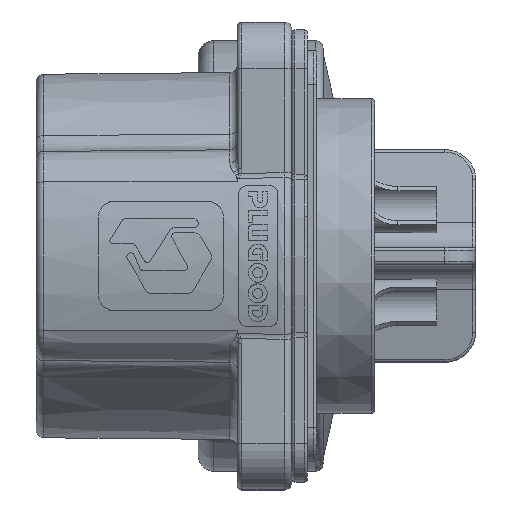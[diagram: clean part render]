
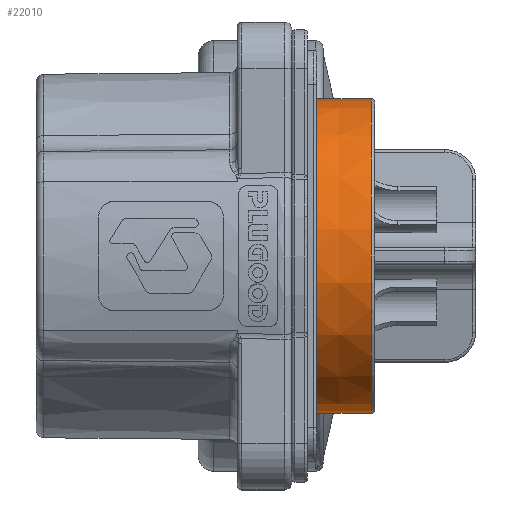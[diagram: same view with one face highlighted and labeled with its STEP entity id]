
A CAD part, front view. The second image highlights one B-rep face of the part: STEP entity #22010.
In plain terms, the highlighted conical face has half-angle 0.2 degrees and reference radius 10.1 mm.
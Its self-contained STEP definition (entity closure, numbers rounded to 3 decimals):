
#3506 = DIRECTION ( 'NONE',  ( 0., 0., -1. ) ) ;
#4284 = AXIS2_PLACEMENT_3D ( 'NONE', #45570, #27696, #23283 ) ;
#6580 = LINE ( 'NONE', #28331, #30476 ) ;
#8500 = CARTESIAN_POINT ( 'NONE',  ( 42.717, 0., 10.079 ) ) ;
#9336 = CARTESIAN_POINT ( 'NONE',  ( 38.616, 0., 0. ) ) ;
#11451 = VECTOR ( 'NONE', #31736, 1000. ) ;
#12272 = CARTESIAN_POINT ( 'NONE',  ( 38.616, 0., 10.093 ) ) ;
#12901 = CARTESIAN_POINT ( 'NONE',  ( 42.717, 0., 0. ) ) ;
#14070 = ORIENTED_EDGE ( 'NONE', *, *, #42754, .T. ) ;
#17427 = CONICAL_SURFACE ( 'NONE', #4284, 10.1, 0.003 ) ;
#17517 = VERTEX_POINT ( 'NONE', #20855 ) ;
#17713 = CARTESIAN_POINT ( 'NONE',  ( 38.616, 0., -10.093 ) ) ;
#18159 = DIRECTION ( 'NONE',  ( 0., 1., 0. ) ) ;
#20186 = CIRCLE ( 'NONE', #21107, 10.093 ) ;
#20855 = CARTESIAN_POINT ( 'NONE',  ( 42.717, 0., -10.079 ) ) ;
#21107 = AXIS2_PLACEMENT_3D ( 'NONE', #9336, #27245, #18159 ) ;
#22010 = ADVANCED_FACE ( 'NONE', ( #27994 ), #17427, .T. ) ;
#22642 = LINE ( 'NONE', #40546, #11451 ) ;
#23112 = ORIENTED_EDGE ( 'NONE', *, *, #33360, .F. ) ;
#23283 = DIRECTION ( 'NONE',  ( 0., 0., 1. ) ) ;
#26286 = ORIENTED_EDGE ( 'NONE', *, *, #34560, .T. ) ;
#27245 = DIRECTION ( 'NONE',  ( 1., 0., 0. ) ) ;
#27635 = ORIENTED_EDGE ( 'NONE', *, *, #56820, .T. ) ;
#27696 = DIRECTION ( 'NONE',  ( -1., 0., 0. ) ) ;
#27994 = FACE_OUTER_BOUND ( 'NONE', #43023, .T. ) ;
#28331 = CARTESIAN_POINT ( 'NONE',  ( 36.616, 0., 10.1 ) ) ;
#30476 = VECTOR ( 'NONE', #55550, 1000. ) ;
#31616 = CIRCLE ( 'NONE', #56881, 10.079 ) ;
#31736 = DIRECTION ( 'NONE',  ( -1., 0., -0.003 ) ) ;
#33360 = EDGE_CURVE ( 'NONE', #17517, #46485, #22642, .T. ) ;
#34560 = EDGE_CURVE ( 'NONE', #17517, #50223, #31616, .T. ) ;
#40546 = CARTESIAN_POINT ( 'NONE',  ( 36.616, 0., -10.1 ) ) ;
#42754 = EDGE_CURVE ( 'NONE', #46160, #46485, #20186, .T. ) ;
#43023 = EDGE_LOOP ( 'NONE', ( #23112, #26286, #27635, #14070 ) ) ;
#43698 = DIRECTION ( 'NONE',  ( -1., 0., 0. ) ) ;
#45570 = CARTESIAN_POINT ( 'NONE',  ( 36.616, 0., 0. ) ) ;
#46160 = VERTEX_POINT ( 'NONE', #12272 ) ;
#46485 = VERTEX_POINT ( 'NONE', #17713 ) ;
#50223 = VERTEX_POINT ( 'NONE', #8500 ) ;
#55550 = DIRECTION ( 'NONE',  ( -1., 0., 0.003 ) ) ;
#56820 = EDGE_CURVE ( 'NONE', #50223, #46160, #6580, .T. ) ;
#56881 = AXIS2_PLACEMENT_3D ( 'NONE', #12901, #43698, #3506 ) ;
